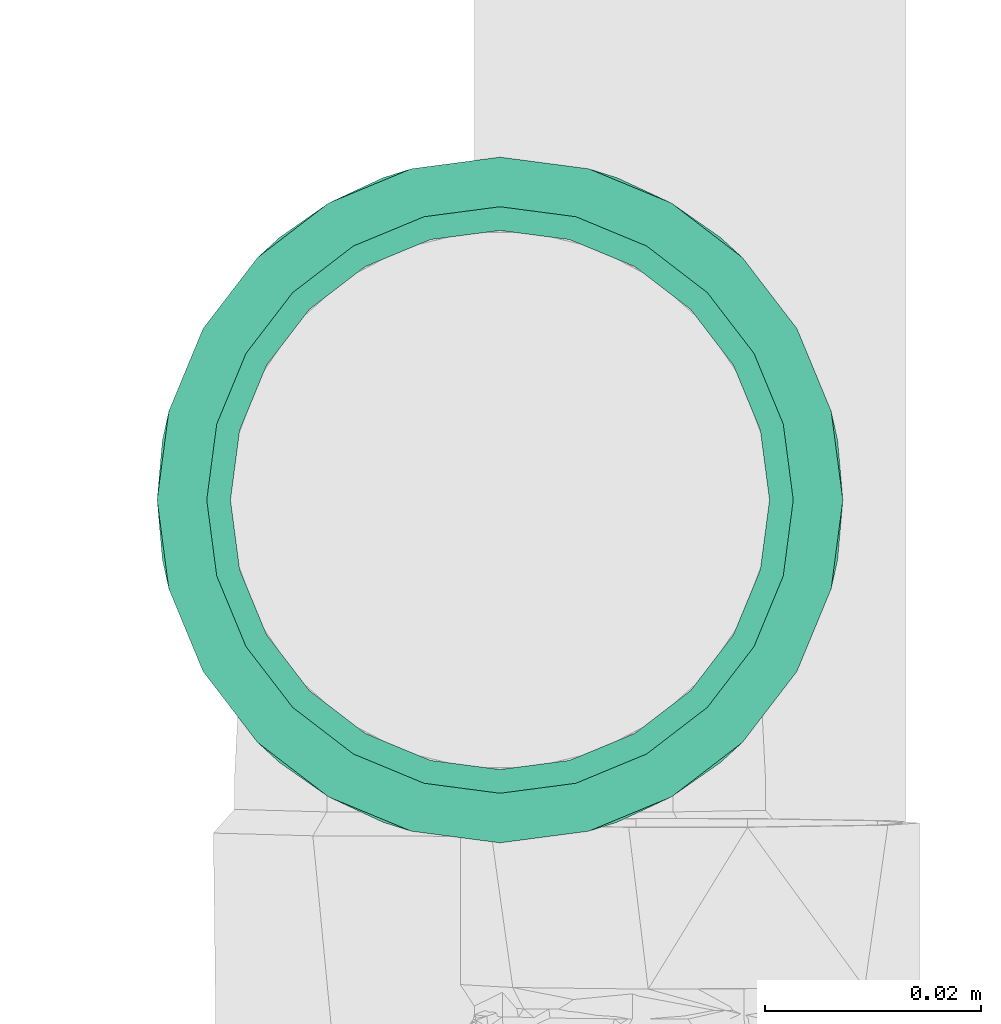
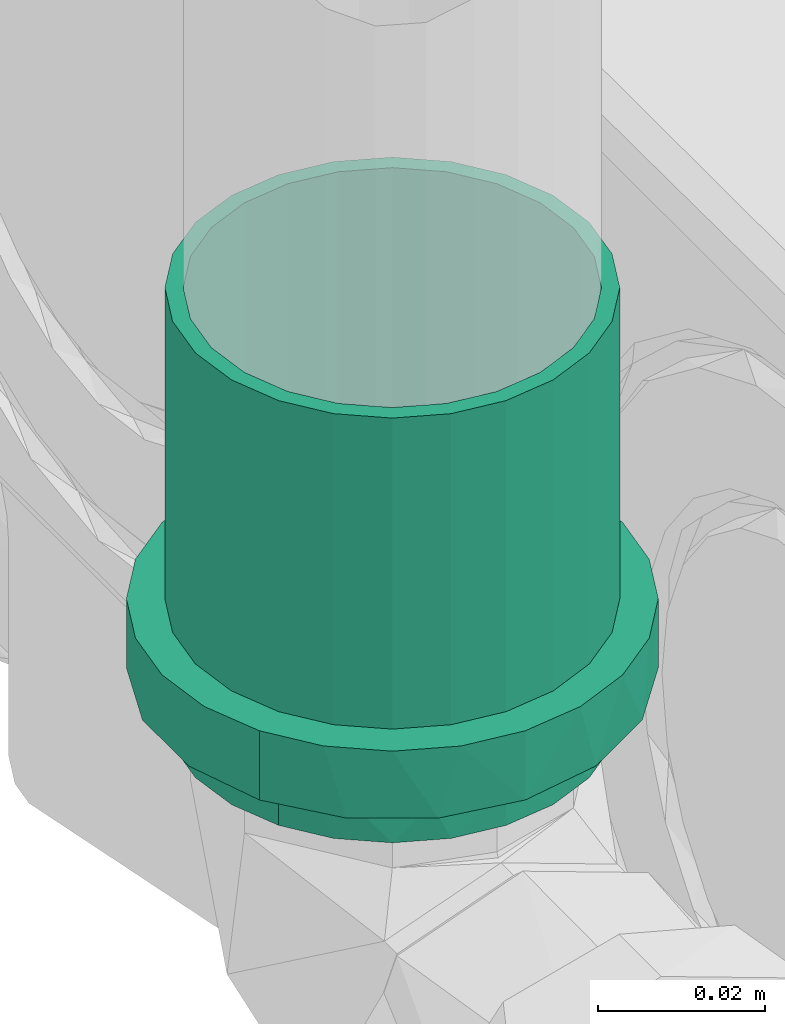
# One storey, part 55 of 589: 1 flow fitting.
"""IFC2X3 building model written with IfcOpenShell, lengths in millimetres."""

from ifc_helpers import new_model, entity, si_unit, converted_unit, derived_unit, direction, frame, origin, place, context, subcontext, project, spatial, faceted_brep, source, transform, mapped, material, type_object, type_shapes, element, save


model = new_model("IFC2X3")

# Units and contexts
model_context = context("Model", 3, precision=0.01, world=origin(), true_north=direction((6.123031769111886e-17, 1.0)))
body_context = subcontext(model_context, "Body", "Model", "MODEL_VIEW")
ifc_project = project(units=[si_unit("LENGTHUNIT", "METRE", prefix="MILLI"), si_unit("AREAUNIT", "SQUARE_METRE"), si_unit("VOLUMEUNIT", "CUBIC_METRE"), converted_unit("PLANEANGLEUNIT", "DEGREE", entity("IfcRatioMeasure", 0.017453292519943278), si_unit("PLANEANGLEUNIT", "RADIAN"), dimensions=[0, 0, 0, 0, 0, 0, 0]), si_unit("MASSUNIT", "GRAM", prefix="KILO"), derived_unit("MASSDENSITYUNIT", [(si_unit("MASSUNIT", "GRAM", prefix="KILO"), 1), (si_unit("LENGTHUNIT", "METRE"), -3)]), derived_unit("IONCONCENTRATIONUNIT", [(si_unit("MASSUNIT", "GRAM", prefix="KILO"), 1), (si_unit("LENGTHUNIT", "METRE"), -3)]), derived_unit("MOMENTOFINERTIAUNIT", [(si_unit("LENGTHUNIT", "METRE"), 4)]), si_unit("TIMEUNIT", "SECOND"), si_unit("FREQUENCYUNIT", "HERTZ"), si_unit("THERMODYNAMICTEMPERATUREUNIT", "DEGREE_CELSIUS"), derived_unit("THERMALTRANSMITTANCEUNIT", [(si_unit("MASSUNIT", "GRAM", prefix="KILO"), 1), (si_unit("THERMODYNAMICTEMPERATUREUNIT", "KELVIN"), -1), (si_unit("TIMEUNIT", "SECOND"), -3)]), derived_unit("THERMALCONDUCTANCEUNIT", [(si_unit("MASSUNIT", "GRAM", prefix="KILO"), 1), (si_unit("THERMODYNAMICTEMPERATUREUNIT", "KELVIN"), -1), (si_unit("TIMEUNIT", "SECOND"), -3), (si_unit("LENGTHUNIT", "METRE"), 1)]), derived_unit("VOLUMETRICFLOWRATEUNIT", [(si_unit("LENGTHUNIT", "METRE"), 3), (si_unit("TIMEUNIT", "SECOND"), -1)]), derived_unit("MASSFLOWRATEUNIT", [(si_unit("MASSUNIT", "GRAM", prefix="KILO"), 1), (si_unit("TIMEUNIT", "SECOND"), -1)]), derived_unit("ROTATIONALFREQUENCYUNIT", [(si_unit("TIMEUNIT", "SECOND"), -1)]), si_unit("ELECTRICCURRENTUNIT", "AMPERE"), si_unit("ELECTRICVOLTAGEUNIT", "VOLT"), si_unit("POWERUNIT", "WATT"), si_unit("FORCEUNIT", "NEWTON", prefix="KILO"), si_unit("ILLUMINANCEUNIT", "LUX"), si_unit("LUMINOUSFLUXUNIT", "LUMEN"), si_unit("LUMINOUSINTENSITYUNIT", "CANDELA"), derived_unit("USERDEFINED", [(si_unit("MASSUNIT", "GRAM", prefix="KILO"), -1), (si_unit("LENGTHUNIT", "METRE"), -2), (si_unit("TIMEUNIT", "SECOND"), 3), (si_unit("LUMINOUSFLUXUNIT", "LUMEN"), 1)]), derived_unit("USERDEFINED", [(si_unit("MASSUNIT", "GRAM", prefix="KILO"), 1), (si_unit("TIMEUNIT", "SECOND"), -3), (si_unit("LENGTHUNIT", "METRE"), 3), (si_unit("ELECTRICCURRENTUNIT", "AMPERE"), -2)]), derived_unit("SOUNDPOWERUNIT", [(si_unit("MASSUNIT", "GRAM", prefix="KILO"), 1), (si_unit("TIMEUNIT", "SECOND"), -3), (si_unit("LENGTHUNIT", "METRE"), 2)]), derived_unit("SOUNDPRESSUREUNIT", [(si_unit("MASSUNIT", "GRAM", prefix="KILO"), 1), (si_unit("LENGTHUNIT", "METRE"), -1), (si_unit("TIMEUNIT", "SECOND"), -2)]), derived_unit("LINEARVELOCITYUNIT", [(si_unit("LENGTHUNIT", "METRE"), 1), (si_unit("TIMEUNIT", "SECOND"), -1)]), si_unit("PRESSUREUNIT", "PASCAL"), derived_unit("USERDEFINED", [(si_unit("MASSUNIT", "GRAM", prefix="KILO"), 1), (si_unit("LENGTHUNIT", "METRE"), -2), (si_unit("TIMEUNIT", "SECOND"), -2)]), derived_unit("LINEARFORCEUNIT", [(si_unit("MASSUNIT", "GRAM", prefix="KILO"), 1), (si_unit("TIMEUNIT", "SECOND"), -2)]), derived_unit("PLANARFORCEUNIT", [(si_unit("MASSUNIT", "GRAM", prefix="KILO"), 1), (si_unit("LENGTHUNIT", "METRE"), -1), (si_unit("TIMEUNIT", "SECOND"), -2)]), derived_unit("SPECIFICHEATCAPACITYUNIT", [(si_unit("THERMODYNAMICTEMPERATUREUNIT", "KELVIN"), -1), (si_unit("LENGTHUNIT", "METRE"), 2), (si_unit("TIMEUNIT", "SECOND"), -2)]), derived_unit("HEATINGVALUEUNIT", [(si_unit("LENGTHUNIT", "METRE"), 2), (si_unit("TIMEUNIT", "SECOND"), -2)]), derived_unit("VAPORPERMEABILITYUNIT", [(si_unit("LENGTHUNIT", "METRE"), -1), (si_unit("TIMEUNIT", "SECOND"), 1)]), derived_unit("DYNAMICVISCOSITYUNIT", [(si_unit("MASSUNIT", "GRAM", prefix="KILO"), 1), (si_unit("TIMEUNIT", "SECOND"), -1), (si_unit("LENGTHUNIT", "METRE"), -1)]), derived_unit("THERMALEXPANSIONCOEFFICIENTUNIT", [(si_unit("THERMODYNAMICTEMPERATUREUNIT", "KELVIN"), -1)]), derived_unit("MODULUSOFELASTICITYUNIT", [(si_unit("MASSUNIT", "GRAM", prefix="KILO"), 1), (si_unit("LENGTHUNIT", "METRE"), -1), (si_unit("TIMEUNIT", "SECOND"), -2)]), derived_unit("ISOTHERMALMOISTURECAPACITYUNIT", [(si_unit("LENGTHUNIT", "METRE"), 3), (si_unit("MASSUNIT", "GRAM", prefix="KILO"), -1)]), derived_unit("MOISTUREDIFFUSIVITYUNIT", [(si_unit("TIMEUNIT", "SECOND"), -1), (si_unit("LENGTHUNIT", "METRE"), 2)])], contexts=[model_context])

# Site, building, storey
site_placement = place(None, origin())
site = spatial("IfcSite", under=ifc_project, at=site_placement, Name="Default", CompositionType="ELEMENT")
building_placement = place(site_placement, origin())
building = spatial("IfcBuilding", under=site, at=building_placement, CompositionType="ELEMENT")
storey_placement = place(building_placement, frame((0.0, 0.0, 100.0)))
storey = spatial("IfcBuildingStorey", under=building, at=storey_placement, Name="TÉRREO", CompositionType="ELEMENT", Elevation=100.0)

# Flow fitting
ifc_material = material(Name="PVC Série Normal")
pipe_fitting_type = type_object("IfcPipeFittingType", Name="PVC Esgoto_Luva Simples para Conexão_Rodrigo MEP:Standard", PredefinedType="NOTDEFINED", material=ifc_material)
shared_shape = source(origin(), body_context, "Body", "Brep", [
    faceted_brep([(16.599999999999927, 15.900000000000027, -27.53960784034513), (16.599999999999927, 22.485995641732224, -22.485995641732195), (16.599999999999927, 13.599999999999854, -23.555890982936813), (16.599999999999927, 7.039878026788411, -26.273182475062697), (16.599999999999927, 8.2304456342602, -30.71644127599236), (16.599999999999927, 19.233304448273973, -19.233304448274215), (16.599999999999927, 27.539607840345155, -15.899999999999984), (16.599999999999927, 23.55589098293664, -13.600000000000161), (16.599999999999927, 26.273182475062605, -7.03987802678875), (16.599999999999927, 30.716441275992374, -8.230445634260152), (16.599999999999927, 27.2, 0.0), (16.599999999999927, 31.8, 0.0), (16.599999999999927, 26.273182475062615, 7.0398780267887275), (16.599999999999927, 30.71644127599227, 8.23044563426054), (16.599999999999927, 23.555890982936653, 13.60000000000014), (16.599999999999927, 27.539607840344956, 15.900000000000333), (16.599999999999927, 19.233304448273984, 19.2333044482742), (16.599999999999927, 22.485995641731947, 22.48599564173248), (16.599999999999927, 13.599999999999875, 23.555890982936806), (16.599999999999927, 15.899999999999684, 27.53960784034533), (16.599999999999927, 7.039878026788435, 26.27318247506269), (16.599999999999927, 8.230445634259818, 30.716441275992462), (16.599999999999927, 0.0, 27.2), (16.599999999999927, 0.0, 31.8), (16.599999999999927, -7.039878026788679, 26.273182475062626), (16.599999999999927, -8.230445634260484, 30.716441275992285), (16.599999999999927, -13.600000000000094, 23.555890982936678), (16.599999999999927, -15.900000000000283, 27.53960784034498), (16.599999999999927, -19.23330444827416, 19.233304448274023), (16.599999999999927, -22.485995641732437, 22.48599564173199), (16.599999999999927, -23.55589098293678, 13.59999999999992), (16.599999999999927, -27.539607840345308, 15.899999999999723), (16.599999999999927, -30.71644127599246, 8.230445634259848), (16.599999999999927, -26.273182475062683, 7.039878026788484), (16.599999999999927, -31.8, 0.0), (16.599999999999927, -27.2, 0.0), (16.599999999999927, -30.71644127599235, -8.23044563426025), (16.599999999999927, -26.273182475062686, -7.03987802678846), (16.599999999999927, -27.53960784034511, -15.90000000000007), (16.599999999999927, -23.55589098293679, -13.599999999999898), (16.599999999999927, -22.485995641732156, -22.485995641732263), (16.599999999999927, -19.233304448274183, -19.233304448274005), (16.599999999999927, -15.899999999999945, -27.53960784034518), (16.599999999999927, -13.600000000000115, -23.555890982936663), (16.599999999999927, -8.230445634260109, -30.716441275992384), (16.599999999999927, -7.039878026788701, -26.273182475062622), (16.599999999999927, 0.0, -31.8), (16.599999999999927, 0.0, -27.2), (6.500000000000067, -10.708108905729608, 29.429219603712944), (6.500000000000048, -24.359073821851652, 20.44200387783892), (6.500000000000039, -27.120498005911, 15.6595386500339), (6.50000000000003, -29.881922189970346, 10.877073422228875), (6.500000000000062, -15.89769721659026, 27.540937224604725), (6.500000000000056, -20.128385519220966, 23.991470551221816), (6.50000000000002, -30.840961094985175, 5.438536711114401), (6.5000000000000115, -31.8, 0.0), (6.50000000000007, -5.518520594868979, 31.317501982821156), (6.500000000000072, 5.526376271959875, 31.316116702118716), (6.50000000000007, 0.00392783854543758, 31.316809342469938), (6.500000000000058, 20.134403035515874, 23.986420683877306), (6.500000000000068, 10.715490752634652, 29.42653259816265), (6.500000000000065, 15.904605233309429, 27.536948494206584), (6.500000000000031, 29.8846497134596, 10.869577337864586), (6.500000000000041, 27.12442527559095, 15.652735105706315), (6.5000000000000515, 24.364200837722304, 20.435892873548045), (6.5000000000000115, 31.8, 0.0), (6.499999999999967, 24.364200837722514, -20.435892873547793), (6.499999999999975, 27.12442527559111, -15.652735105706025), (6.499999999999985, 29.884649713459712, -10.869577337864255), (6.4999999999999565, 15.904605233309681, -27.53694849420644), (6.499999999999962, 20.134403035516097, -23.986420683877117), (6.499999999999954, 10.715490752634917, -29.42653259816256), (6.499999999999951, 5.526376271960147, -31.31611670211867), (6.499999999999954, -5.518520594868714, -31.317501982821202), (6.499999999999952, 0.003927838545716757, -31.316809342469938), (6.499999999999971, -20.128385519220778, -23.99147055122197), (6.499999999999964, -15.897697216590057, -27.54093722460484), (6.499999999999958, -10.70810890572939, -29.42921960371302), (6.499999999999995, -29.881922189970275, -10.877073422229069), (6.499999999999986, -27.12049800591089, -15.659538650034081), (6.499999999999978, -24.359073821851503, -20.442003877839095), (6.500000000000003, -30.840961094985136, -5.438536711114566), (6.499999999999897, -30.696173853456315, -6.259599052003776), (62.0, 13.600000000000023, -23.55589098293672), (62.0, 19.233304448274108, -19.23330444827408), (62.0, 12.499999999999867, -21.650635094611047), (62.0, 6.470476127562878, -24.14814565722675), (62.0, 7.039878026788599, -26.273182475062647), (62.0, 17.677669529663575, -17.677669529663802), (62.0, 23.55589098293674, -13.599999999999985), (62.0, 21.65063509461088, -12.50000000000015), (62.0, 24.148145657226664, -6.470476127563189), (62.0, 26.27318247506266, -7.039878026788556), (62.0, 25.0, 0.0), (62.0, 27.2, 0.0), (62.0, 24.148145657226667, 6.4704761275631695), (62.0, 26.273182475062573, 7.03987802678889), (62.0, 21.650635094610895, 12.500000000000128), (62.0, 23.555890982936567, 13.600000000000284), (62.0, 17.67766952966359, 17.67766952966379), (62.0, 19.233304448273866, 19.233304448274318), (62.0, 12.499999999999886, 21.650635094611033), (62.0, 13.59999999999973, 23.55589098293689), (62.0, 6.4704761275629, 24.14814565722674), (62.0, 7.039878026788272, 26.273182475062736), (62.0, 0.0, 25.0), (62.0, 0.0, 27.2), (62.0, -6.470476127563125, 24.148145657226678), (62.0, -7.039878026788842, 26.273182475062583), (62.0, -12.500000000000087, 21.650635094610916), (62.0, -13.600000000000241, 23.555890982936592), (62.0, -17.677669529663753, 17.677669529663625), (62.0, -19.233304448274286, 19.2333044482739), (62.0, -21.65063509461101, 12.499999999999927), (62.0, -23.555890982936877, 13.599999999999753), (62.0, -26.27318247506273, 7.039878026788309), (62.0, -24.14814565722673, 6.470476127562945), (62.0, -27.2, 0.0), (62.0, -25.0, 0.0), (62.0, -26.27318247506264, -7.0398780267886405), (62.0, -24.148145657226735, -6.470476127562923), (62.0, -23.5558909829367, -13.600000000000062), (62.0, -21.650635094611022, -12.499999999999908), (62.0, -19.233304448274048, -19.233304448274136), (62.0, -17.67766952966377, -17.677669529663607), (62.0, -13.599999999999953, -23.555890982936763), (62.0, -12.500000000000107, -21.650635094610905), (62.0, -7.039878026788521, -26.27318247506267), (62.0, -6.470476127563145, -24.148145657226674), (62.0, 0.0, -27.2), (62.0, 0.0, -25.0), (0.0, 12.499999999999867, -21.650635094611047), (0.0, 19.233304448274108, -19.23330444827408), (0.0, 13.600000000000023, -23.55589098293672), (0.0, 6.470476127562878, -24.14814565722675), (0.0, 17.677669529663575, -17.677669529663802), (0.0, 23.55589098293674, -13.599999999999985), (0.0, 21.65063509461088, -12.50000000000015), (0.0, 24.148145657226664, -6.470476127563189), (0.0, 26.27318247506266, -7.039878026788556), (0.0, 25.0, 0.0), (0.0, 27.2, 0.0), (0.0, 24.148145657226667, 6.4704761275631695), (0.0, 26.273182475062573, 7.03987802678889), (0.0, 21.650635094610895, 12.500000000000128), (0.0, 23.555890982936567, 13.600000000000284), (0.0, 17.67766952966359, 17.67766952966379), (0.0, 19.233304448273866, 19.233304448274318), (0.0, 12.499999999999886, 21.650635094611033), (0.0, 13.59999999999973, 23.55589098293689), (0.0, 6.4704761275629, 24.14814565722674), (0.0, 7.039878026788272, 26.273182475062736), (0.0, 0.0, 25.0), (0.0, 0.0, 27.2), (0.0, -6.470476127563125, 24.148145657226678), (0.0, -7.039878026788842, 26.273182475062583), (0.0, -12.500000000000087, 21.650635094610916), (0.0, -13.600000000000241, 23.555890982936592), (0.0, -17.677669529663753, 17.677669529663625), (0.0, -19.233304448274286, 19.2333044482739), (0.0, -21.65063509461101, 12.499999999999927), (0.0, -23.555890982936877, 13.599999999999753), (0.0, -26.27318247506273, 7.039878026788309), (0.0, -24.14814565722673, 6.470476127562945), (0.0, -27.2, 0.0), (0.0, -25.0, 0.0), (0.0, -26.27318247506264, -7.0398780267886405), (0.0, -24.148145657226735, -6.470476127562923), (0.0, -23.5558909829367, -13.600000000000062), (0.0, -21.650635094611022, -12.499999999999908), (0.0, -19.233304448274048, -19.233304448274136), (0.0, -17.67766952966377, -17.677669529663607), (0.0, -13.599999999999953, -23.555890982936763), (0.0, -12.500000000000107, -21.650635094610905), (0.0, -7.039878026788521, -26.27318247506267), (0.0, -6.470476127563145, -24.148145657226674), (0.0, 0.0, -27.2), (0.0, 0.0, -25.0), (0.0, 7.039878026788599, -26.273182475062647), (5.300000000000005, -26.37968999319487, 4.651830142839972), (5.299999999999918, -26.25584678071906, 5.354122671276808), (5.300000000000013, -25.559379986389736, 9.303660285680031), (5.300000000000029, -20.835434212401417, 17.48498444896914), (5.300000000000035, -17.216732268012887, 20.521006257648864), (5.300000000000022, -23.19740709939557, 13.394322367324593), (5.3000000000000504, -4.720244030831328, 26.787297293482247), (5.300000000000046, -9.15913717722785, 25.172162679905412), (5.299999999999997, -27.2, 0.0), (5.300000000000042, -13.598030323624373, 23.557028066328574), (5.300000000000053, 9.165451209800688, 25.169864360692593), (5.300000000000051, 13.603939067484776, 23.55361632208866), (5.300000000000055, 4.7269633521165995, 26.786112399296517), (5.300000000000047, 17.221879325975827, 20.516686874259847), (5.300000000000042, 20.839819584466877, 17.479757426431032), (5.3000000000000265, 25.56171296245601, 9.297248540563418), (5.299999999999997, 27.2, 0.0), (5.3000000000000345, 23.20076627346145, 13.388502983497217), (5.300000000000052, 0.003359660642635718, 26.786704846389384), (5.299999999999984, 25.56171296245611, -9.29724854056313), (5.299999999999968, 20.839819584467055, -17.47975742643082), (5.2999999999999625, 17.22187932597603, -20.516686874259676), (5.299999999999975, 23.200766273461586, -13.388502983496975), (5.299999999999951, 4.726963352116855, -26.78611239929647), (5.2999999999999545, 9.165451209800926, -25.169864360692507), (5.299999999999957, 13.603939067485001, -23.553616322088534), (5.29999999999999, -26.379689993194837, -4.651830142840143), (5.299999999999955, -9.159137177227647, -25.17216267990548), (5.299999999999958, -13.5980303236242, -23.55702806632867), (5.299999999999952, -4.720244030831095, -26.787297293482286), (5.299999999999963, -17.216732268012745, -20.52100625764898), (5.299999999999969, -20.83543421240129, -17.484984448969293), (5.299999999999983, -25.559379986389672, -9.303660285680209), (5.299999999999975, -23.197407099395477, -13.394322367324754), (5.299999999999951, 0.003359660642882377, -26.78670484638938), (39.0, -25.0, 0.0), (39.0, 25.0, 0.0)], [[[0, 1, 2]], [[0, 2, 3]], [[3, 4, 0]], [[2, 1, 5]], [[6, 5, 1]], [[7, 5, 6]], [[8, 7, 6]], [[8, 6, 9]], [[8, 9, 10]], [[10, 9, 11]], [[12, 10, 11]], [[12, 11, 13]], [[14, 12, 13]], [[14, 13, 15]], [[16, 14, 15]], [[15, 17, 16]], [[17, 18, 16]], [[17, 19, 18]], [[18, 19, 20]], [[21, 20, 19]], [[20, 21, 22]], [[22, 21, 23]], [[22, 23, 24]], [[24, 23, 25]], [[24, 25, 26]], [[27, 26, 25]], [[27, 28, 26]], [[28, 27, 29]], [[30, 28, 29]], [[31, 30, 29]], [[32, 30, 31]], [[33, 30, 32]], [[33, 32, 34]], [[35, 33, 34]], [[36, 35, 34]], [[36, 37, 35]], [[37, 36, 38]], [[39, 37, 38]], [[39, 38, 40]], [[39, 40, 41]], [[40, 42, 41]], [[41, 42, 43]], [[43, 42, 44]], [[44, 45, 43]], [[46, 45, 44]], [[4, 47, 46]], [[46, 47, 45]], [[4, 3, 47]], [[48, 27, 25]], [[31, 29, 49]], [[31, 49, 50, 51]], [[52, 53, 27]], [[32, 51, 54]], [[54, 55, 34]], [[54, 34, 32]], [[25, 56, 48]], [[49, 29, 53]], [[23, 57, 58, 56]], [[59, 19, 17]], [[27, 53, 29]], [[48, 52, 27]], [[31, 51, 32]], [[57, 23, 21]], [[60, 19, 61]], [[15, 62, 63, 64]], [[19, 60, 21]], [[15, 13, 62]], [[17, 64, 59]], [[57, 21, 60]], [[23, 56, 25]], [[15, 64, 17]], [[13, 65, 62]], [[13, 11, 65]], [[59, 61, 19]], [[65, 11, 9]], [[6, 1, 66]], [[6, 66, 67, 68]], [[69, 70, 0]], [[68, 65, 9]], [[71, 69, 0]], [[71, 0, 4]], [[4, 72, 71]], [[66, 1, 70]], [[46, 73, 74, 72]], [[75, 76, 42]], [[0, 70, 1]], [[75, 42, 40]], [[6, 68, 9]], [[73, 46, 44]], [[77, 42, 76]], [[38, 78, 79, 80]], [[42, 77, 44]], [[38, 36, 78]], [[40, 80, 75]], [[73, 44, 77]], [[46, 72, 4]], [[38, 80, 40]], [[36, 81, 82, 78]], [[55, 81, 34]], [[34, 81, 36]], [[83, 84, 85]], [[83, 85, 86]], [[86, 87, 83]], [[85, 84, 88]], [[89, 88, 84]], [[88, 89, 90]], [[90, 89, 91]], [[92, 91, 89]], [[92, 93, 91]], [[93, 92, 94]], [[95, 93, 94]], [[94, 96, 95]], [[95, 96, 97]], [[98, 97, 96]], [[97, 98, 99]], [[99, 98, 100]], [[101, 99, 100]], [[100, 102, 101]], [[101, 102, 103]], [[104, 103, 102]], [[103, 104, 105]], [[105, 104, 106]], [[105, 106, 107]], [[107, 106, 108]], [[107, 108, 109]], [[110, 109, 108]], [[110, 111, 109]], [[111, 110, 112]], [[112, 113, 111]], [[114, 113, 112]], [[113, 114, 115]], [[115, 116, 113]], [[117, 116, 115]], [[117, 118, 116]], [[119, 118, 117]], [[119, 120, 118]], [[120, 119, 121]], [[121, 122, 120]], [[122, 121, 123]], [[122, 123, 124]], [[123, 125, 124]], [[124, 125, 126]], [[126, 125, 127]], [[127, 128, 126]], [[129, 128, 127]], [[87, 130, 129]], [[129, 130, 128]], [[87, 86, 130]], [[131, 132, 133]], [[134, 131, 133]], [[135, 132, 131]], [[132, 135, 136]], [[137, 136, 135]], [[138, 136, 137]], [[136, 138, 139]], [[138, 140, 139]], [[141, 139, 140]], [[141, 140, 142]], [[142, 143, 141]], [[144, 143, 142]], [[143, 144, 145]], [[146, 145, 144]], [[147, 145, 146]], [[147, 146, 148]], [[148, 149, 147]], [[150, 149, 148]], [[149, 150, 151]], [[152, 151, 150]], [[153, 151, 152]], [[154, 153, 152]], [[155, 153, 154]], [[156, 155, 154]], [[155, 156, 157]], [[156, 158, 157]], [[159, 157, 158]], [[158, 160, 159]], [[159, 160, 161]], [[162, 161, 160]], [[160, 163, 162]], [[162, 163, 164]], [[163, 165, 164]], [[164, 165, 166]], [[165, 167, 166]], [[168, 166, 167]], [[167, 169, 168]], [[170, 168, 169]], [[171, 170, 169]], [[171, 172, 170]], [[173, 172, 171]], [[174, 172, 173]], [[173, 175, 174]], [[174, 175, 176]], [[175, 177, 176]], [[177, 134, 178]], [[176, 177, 178]], [[133, 178, 134]], [[162, 179, 180, 181]], [[159, 182, 183]], [[182, 161, 181, 184]], [[185, 155, 186]], [[161, 162, 181]], [[187, 179, 164]], [[183, 188, 157]], [[183, 157, 159]], [[161, 182, 159]], [[189, 190, 149]], [[189, 149, 151]], [[157, 188, 186]], [[157, 186, 155]], [[153, 155, 185]], [[164, 179, 162]], [[151, 191, 189]], [[147, 192, 193]], [[143, 194, 195]], [[194, 145, 193, 196]], [[143, 195, 141]], [[10, 12, 96, 94]], [[149, 192, 147]], [[153, 185, 197, 191]], [[153, 191, 151]], [[145, 147, 193]], [[190, 192, 149]], [[145, 194, 143]], [[139, 195, 198]], [[132, 199, 200]], [[199, 136, 198, 201]], [[202, 178, 203]], [[136, 139, 198]], [[139, 141, 195]], [[92, 8, 10, 94]], [[133, 203, 178]], [[200, 204, 133]], [[136, 199, 132]], [[205, 164, 166]], [[206, 207, 172]], [[133, 204, 203]], [[206, 172, 174]], [[176, 178, 202]], [[200, 133, 132]], [[174, 208, 206]], [[170, 209, 210]], [[166, 211, 205]], [[211, 168, 210, 212]], [[168, 211, 166]], [[172, 209, 170]], [[176, 202, 213, 208]], [[176, 208, 174]], [[168, 170, 210]], [[207, 209, 172]], [[205, 187, 164]], [[116, 118, 214, 165, 163]], [[156, 109, 111, 158]], [[111, 113, 160, 158]], [[113, 116, 163, 160]], [[107, 109, 156, 154]], [[154, 152, 105, 107]], [[103, 105, 152, 150]], [[103, 150, 148, 101]], [[142, 95, 97, 144]], [[97, 99, 146, 144]], [[99, 101, 148, 146]], [[93, 95, 142, 140, 215]], [[215, 140, 138, 91, 93]], [[135, 131, 85, 88]], [[90, 91, 138, 137]], [[90, 137, 135, 88]], [[86, 85, 131, 134]], [[134, 177, 130, 86]], [[128, 130, 177, 175]], [[128, 175, 173, 126]], [[167, 120, 122, 169]], [[122, 124, 171, 169]], [[124, 126, 173, 171]], [[118, 120, 167, 165, 214]], [[211, 78, 82, 81, 55, 187, 205]], [[79, 78, 211, 212, 210, 80]], [[75, 80, 210, 209, 207, 76]], [[207, 206, 208, 73, 77, 76]], [[213, 202, 72, 74, 73, 208]], [[203, 204, 69, 71, 72, 202]], [[198, 195, 65, 68]], [[199, 201, 198, 68, 67, 66]], [[204, 200, 199, 66, 70, 69]], [[195, 194, 62, 65]], [[197, 185, 56, 58, 57, 191]], [[63, 62, 194, 196, 193, 64]], [[57, 60, 61, 190, 189, 191]], [[193, 192, 190, 61, 59, 64]], [[48, 56, 185, 186, 188, 52]], [[187, 55, 54, 51, 181, 180, 179]], [[182, 184, 181, 51, 50, 49]], [[188, 183, 182, 49, 53, 52]], [[30, 33, 115, 114]], [[117, 115, 33, 35]], [[26, 28, 112, 110]], [[114, 112, 28, 30]], [[24, 26, 110, 108]], [[108, 106, 22, 24]], [[18, 20, 104, 102]], [[100, 16, 18, 102]], [[12, 14, 98, 96]], [[100, 98, 14, 16]], [[104, 20, 22, 106]], [[89, 7, 8, 92]], [[83, 87, 3, 2]], [[7, 89, 84, 5]], [[83, 2, 5, 84]], [[87, 129, 47, 3]], [[43, 45, 127, 125]], [[123, 41, 43, 125]], [[37, 39, 121, 119]], [[123, 121, 39, 41]], [[35, 37, 119, 117]], [[127, 45, 47, 129]]]),
])
type_shapes(pipe_fitting_type, [shared_shape])
flow_fitting_placement = place(storey_placement, frame((109.67377091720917, -7102.551975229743, 3006.9909437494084), z_axis=(1.0, 0.0, 0.0), x_axis=(0.0, 0.0, 1.0)))
element("IfcFlowFitting", 1, at=flow_fitting_placement, inside=storey, type_object=pipe_fitting_type, material=ifc_material, Name="PVC Esgoto_Luva Simples para Conexão_Rodrigo MEP:Standard", ObjectType="PVC Esgoto_Luva Simples para Conexão_Rodrigo MEP:Standard", context=body_context, shape_type="MappedRepresentation", body=[
    mapped(shared_shape, transform((0.0, 0.0, 0.0), scale=1.0)),
])

save(model, "model.ifc")
